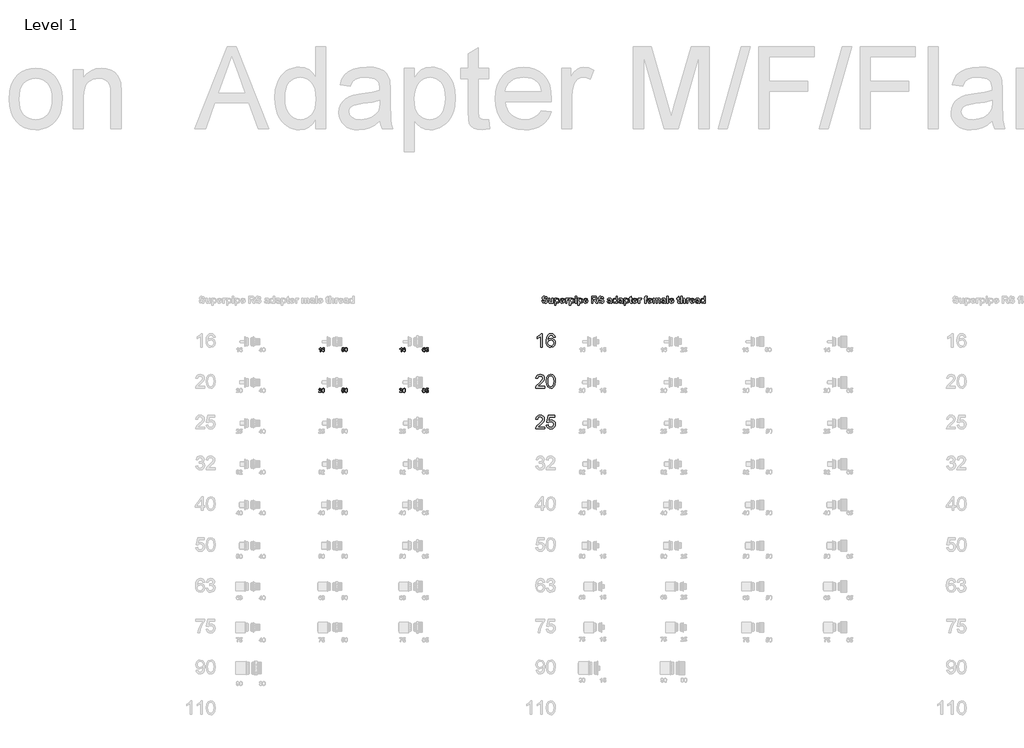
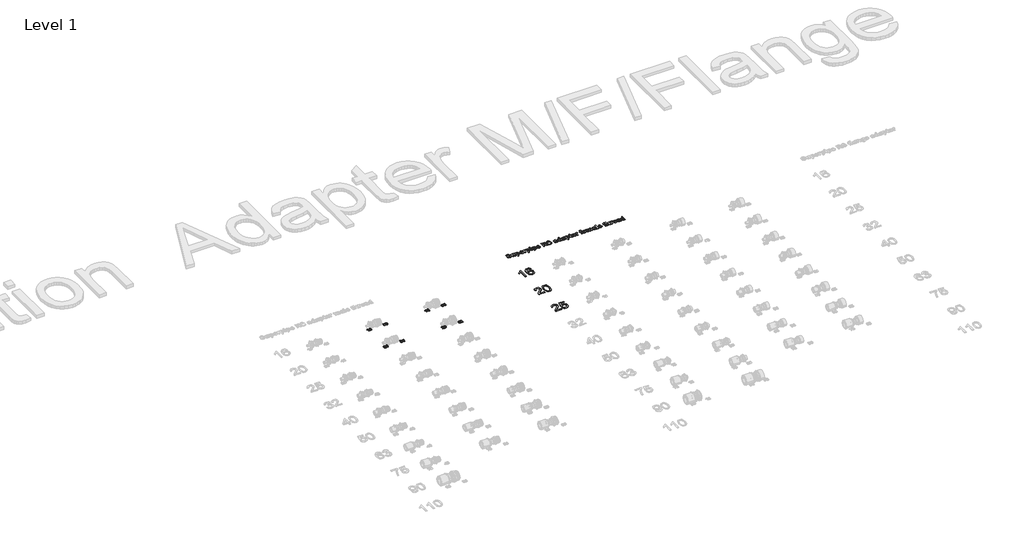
# One storey, part 37 of 58: 12 proxies.
"""IFC4 building model written with IfcOpenShell, lengths in millimetres."""

from ifc_helpers import new_model, si_unit, frame, origin, place, context, project, spatial, polyline, outline, extrude, element, save

model = new_model("IFC4")

# Units and contexts
model_context = context("Model", 3, world=origin())
ifc_project = project(units=[si_unit("LENGTHUNIT", "METRE", prefix="MILLI")], contexts=[model_context])

# Site, building, storey
site = spatial("IfcSite", under=ifc_project)
building = spatial("IfcBuilding", under=site)
storey = spatial("IfcBuildingStorey", under=building, Name="Level 1", Elevation=27.3876384)

# Proxies
placement = place(None, origin())
element("IfcBuildingElementProxy", 1, Name="100mm Arial", ObjectType="100mm Arial", at=placement, inside=storey, context=model_context, shape_type="SweptSolid", body=[
    extrude(outline(polyline([(31331.5703727, 18606.196048), (31319.0133339, 18606.196048), (31319.0133339, 18684.4813365), (31307.1184827, 18676.0077879), (31293.8992564, 18669.6679549), (31293.8992564, 18681.5382806), (31312.3056189, 18693.285979), (31323.4769688, 18706.6523581), (31331.5703727, 18706.6523581), (31331.5703727, 18606.196048)])), frame((0.0, 0.0, 27.3876384), z_axis=(0.0, 0.0, 1.0), x_axis=(1.0, 0.0, 0.0)), (0.0, 0.0, 1.0), 2.0),
    extrude(outline(polyline([(31425.7481635, 18679.9686507), (31413.1911247, 18678.3990209), (31408.4331842, 18688.871395), (31395.85162, 18694.0953193), (31384.5208545, 18691.0541615), (31375.949204, 18679.6375569), (31372.3807487, 18657.2580689), (31383.4539967, 18667.2767219), (31397.1759952, 18670.5508717), (31408.7765407, 18668.3129229), (31418.5131509, 18661.5990764), (31425.1166327, 18651.3413001), (31427.3177933, 18638.4715617), (31423.1729895, 18621.1443197), (31411.7686476, 18608.8815865), (31395.3120597, 18604.6264181), (31381.0658295, 18607.4468468), (31369.7197356, 18615.9081326), (31362.2977163, 18630.8441416), (31359.8237099, 18653.0887396), (31362.5705621, 18678.0985839), (31370.8111188, 18695.1989653), (31382.0621765, 18703.7890099), (31396.6364349, 18706.6523581), (31407.6545007, 18704.8803932), (31416.4775372, 18699.5644983), (31422.6579547, 18691.1216066), (31425.7481635, 18679.9686507)]), holes=[polyline([(31372.3807487, 18638.6677654), (31375.2870164, 18627.7907211), (31383.0125383, 18619.8935209), (31394.3310411, 18617.1834569), (31402.617583, 18618.5875398), (31409.13216, 18622.7997887), (31413.3536059, 18629.4216646), (31414.7607545, 18638.0546288), (31413.372, 18646.3411707), (31409.2057364, 18652.659544), (31402.5807948, 18656.6602607), (31393.8160063, 18657.9938329), (31378.6224799, 18652.659544), (31373.9411815, 18646.4944549), (31372.3807487, 18638.6677654)])]), frame((0.0, 0.0, 27.3876384), z_axis=(0.0, 0.0, 1.0), x_axis=(1.0, 0.0, 0.0)), (0.0, 0.0, 1.0), 2.0),
])
element("IfcBuildingElementProxy", 2, Name="100mm Arial", ObjectType="100mm Arial", at=placement, inside=storey, context=model_context, shape_type="SweptSolid", body=[
    extrude(outline(polyline([(31348.836301, 18318.7530867), (31348.836301, 18306.196048), (31282.9118475, 18306.196048), (31284.2607481, 18314.8535376), (31291.8881681, 18328.1831285), (31307.6089921, 18342.7389928), (31329.2895043, 18363.6592156), (31334.7096324, 18377.8839861), (31329.5960726, 18389.3986925), (31316.2419562, 18394.0953193), (31302.3237541, 18389.5090571), (31297.0385161, 18376.829391), (31284.4814773, 18378.3990209), (31287.5257008, 18390.5452581), (31294.1077228, 18399.4173455), (31303.8841869, 18404.843605), (31316.5117363, 18406.6523581), (31329.2312563, 18404.6412699), (31338.9893263, 18398.6080052), (31345.1973349, 18389.5948963), (31347.2666711, 18378.6442756), (31345.0348537, 18366.7371616), (31337.6159001, 18354.4253775), (31319.6264706, 18337.2207629), (31305.1809709, 18325.1419707), (31299.5155882, 18318.7530867), (31348.836301, 18318.7530867)])), frame((0.0, 0.0, 27.3876384), z_axis=(0.0, 0.0, 1.0), x_axis=(1.0, 0.0, 0.0)), (0.0, 0.0, 1.0), 2.0),
    extrude(outline(polyline([(31361.3933398, 18355.6148627), (31365.0844224, 18384.5181247), (31376.0473059, 18401.1831791), (31394.3555665, 18406.6523581), (31409.0217954, 18403.4149966), (31419.150813, 18394.0830566), (31425.0369249, 18379.220624), (31427.3177933, 18355.6148627), (31423.6634988, 18326.8342279), (31412.7374036, 18310.1323853), (31404.5060439, 18306.0029099), (31394.3555665, 18304.6264181), (31381.3080184, 18307.0176511), (31371.39973, 18314.19135), (31363.8949373, 18331.1813668), (31361.3933398, 18355.6148627)]), holes=[polyline([(31373.9503785, 18355.6393881), (31375.4219065, 18335.8871907), (31379.8364905, 18324.4552577), (31386.4093154, 18319.0014071), (31394.3555665, 18317.1834569), (31402.3018176, 18319.0075385), (31408.8746426, 18324.4797831), (31413.2892265, 18335.9178475), (31414.7607545, 18355.6393881), (31413.3382775, 18374.9470615), (31409.0708463, 18386.4678993), (31402.5102841, 18392.1884643), (31394.2084137, 18394.0953193), (31386.3480018, 18392.4153249), (31380.0326942, 18387.3753416), (31375.4709574, 18375.1371339), (31373.9503785, 18355.6393881)])]), frame((0.0, 0.0, 27.3876384), z_axis=(0.0, 0.0, 1.0), x_axis=(1.0, 0.0, 0.0)), (0.0, 0.0, 1.0), 2.0),
])
element("IfcBuildingElementProxy", 3, Name="100mm Arial", ObjectType="100mm Arial", at=placement, inside=storey, context=model_context, shape_type="SweptSolid", body=[
    extrude(outline(polyline([(31348.836301, 18018.7530867), (31348.836301, 18006.196048), (31282.9118475, 18006.196048), (31284.2607481, 18014.8535376), (31291.8881681, 18028.1831285), (31307.6089921, 18042.7389928), (31329.2895043, 18063.6592156), (31334.7096324, 18077.8839861), (31329.5960726, 18089.3986925), (31316.2419562, 18094.0953193), (31302.3237541, 18089.5090571), (31297.0385161, 18076.829391), (31284.4814773, 18078.3990209), (31287.5257008, 18090.5452581), (31294.1077228, 18099.4173455), (31303.8841869, 18104.843605), (31316.5117363, 18106.6523581), (31329.2312563, 18104.6412699), (31338.9893263, 18098.6080052), (31345.1973349, 18089.5948963), (31347.2666711, 18078.6442756), (31345.0348537, 18066.7371616), (31337.6159001, 18054.4253775), (31319.6264706, 18037.2207629), (31305.1809709, 18025.1419707), (31299.5155882, 18018.7530867), (31348.836301, 18018.7530867)])), frame((0.0, 0.0, 27.3876384), z_axis=(0.0, 0.0, 1.0), x_axis=(1.0, 0.0, 0.0)), (0.0, 0.0, 1.0), 2.0),
    extrude(outline(polyline([(31361.3933398, 18032.8797554), (31373.9503785, 18034.4493852), (31380.2779488, 18021.5122017), (31393.3990733, 18017.1834569), (31402.3999195, 18018.6887074), (31409.1444227, 18023.2044589), (31413.3566716, 18030.2095452), (31414.7607545, 18039.1828002), (31409.500042, 18054.0942837), (31402.8934945, 18058.196168), (31393.5952771, 18059.5634627), (31382.57108, 18057.3806962), (31375.5200084, 18051.7153135), (31362.9629696, 18053.2849434), (31373.9503785, 18105.0827283), (31422.6089038, 18105.0827283), (31422.6089038, 18092.5256895), (31384.1039216, 18092.5256895), (31378.7328445, 18064.8609635), (31387.7030338, 18070.305617), (31397.1024188, 18072.1205015), (31408.8347887, 18069.87029), (31418.5744645, 18063.1196554), (31425.1319611, 18052.8312222), (31427.3177933, 18039.9676151), (31425.3496246, 18027.4105764), (31419.4451186, 18016.6684221), (31408.1388786, 18007.6369191), (31393.3500224, 18004.6264181), (31381.0167785, 18006.5608643), (31371.1912636, 18012.3642028), (31364.4559574, 18021.3619832), (31361.3933398, 18032.8797554)])), frame((0.0, 0.0, 27.3876384), z_axis=(0.0, 0.0, 1.0), x_axis=(1.0, 0.0, 0.0)), (0.0, 0.0, 1.0), 2.0),
])
element("IfcBuildingElementProxy", 4, Name="30mm Arial", ObjectType="30mm Arial", at=placement, inside=storey, context=model_context, shape_type="SweptSolid", body=[
    extrude(outline(polyline([(29706.8418771, 18277.3459656), (29706.8418771, 18273.5788539), (29687.0645411, 18273.5788539), (29687.4692113, 18276.1761008), (29689.7574373, 18280.1749781), (29694.4736845, 18284.5417374), (29700.9778381, 18290.8178042), (29702.6038765, 18295.0852354), (29701.0698086, 18298.5396473), (29697.0635737, 18299.9486353), (29692.8881131, 18298.5727567), (29691.3025417, 18294.7688569), (29687.53543, 18295.2397458), (29690.4233037, 18301.5452432), (29697.1445077, 18303.715747), (29703.8877847, 18301.3024411), (29706.3709882, 18295.3133222), (29705.7014429, 18291.741188), (29703.4757569, 18288.0476528), (29698.078928, 18282.8862684), (29693.7452781, 18279.2626308), (29692.0456633, 18277.3459656), (29706.8418771, 18277.3459656)])), frame((0.0, 0.0, 27.3876384), z_axis=(0.0, 0.0, 1.0), x_axis=(1.0, 0.0, 0.0)), (0.0, 0.0, 1.0), 2.0),
    extrude(outline(polyline([(29710.6089888, 18288.4044983), (29711.7163136, 18297.075477), (29715.0051786, 18302.0749933), (29720.4976568, 18303.715747), (29724.8975255, 18302.7445385), (29727.9362307, 18299.9449565), (29729.7020643, 18295.4862267), (29730.3863248, 18288.4044983), (29729.2900365, 18279.7703079), (29726.0122079, 18274.7597551), (29720.4976568, 18273.107965), (29713.6109058, 18275.9774445), (29710.6089888, 18288.4044983)]), holes=[polyline([(29714.3761004, 18288.411856), (29716.141934, 18279.0566168), (29720.4976568, 18276.8750766), (29724.8533796, 18279.0639745), (29726.6192132, 18288.411856), (29724.9122407, 18297.6604093), (29720.453511, 18299.9486353), (29716.2007951, 18297.932642), (29714.3761004, 18288.411856)])]), frame((0.0, 0.0, 27.3876384), z_axis=(0.0, 0.0, 1.0), x_axis=(1.0, 0.0, 0.0)), (0.0, 0.0, 1.0), 2.0),
])
element("IfcBuildingElementProxy", 5, Name="30mm Arial", ObjectType="30mm Arial", at=placement, inside=storey, context=model_context, shape_type="SweptSolid", body=[
    extrude(outline(polyline([(29856.28543, 18281.5839661), (29860.0525417, 18282.0548551), (29861.9508128, 18278.1737001), (29865.8871501, 18276.8750766), (29870.6107549, 18278.6813772), (29872.2956545, 18283.4748796), (29870.7174407, 18287.9483247), (29865.9460112, 18289.5890784), (29862.6387521, 18288.9342484), (29860.5234306, 18287.2346336), (29856.756319, 18287.7055225), (29860.0525417, 18303.244858), (29874.6500992, 18303.244858), (29874.6500992, 18299.4777464), (29863.0986046, 18299.4777464), (29861.4872814, 18291.1783286), (29866.9981537, 18293.35619), (29873.4397675, 18290.6559361), (29876.0627661, 18283.7103241), (29873.7009637, 18276.7205662), (29865.8724348, 18273.107965), (29859.2248072, 18275.4293004), (29856.28543, 18281.5839661)])), frame((0.0, 0.0, 27.3876384), z_axis=(0.0, 0.0, 1.0), x_axis=(1.0, 0.0, 0.0)), (0.0, 0.0, 1.0), 2.0),
    extrude(outline(polyline([(29879.3589888, 18288.4044983), (29880.4663136, 18297.075477), (29883.7551786, 18302.0749933), (29889.2476568, 18303.715747), (29893.6475255, 18302.7445385), (29896.6862307, 18299.9449565), (29898.4520643, 18295.4862267), (29899.1363248, 18288.4044983), (29898.0400365, 18279.7703079), (29894.7622079, 18274.7597551), (29889.2476568, 18273.107965), (29882.3609058, 18275.9774445), (29879.3589888, 18288.4044983)]), holes=[polyline([(29883.1261004, 18288.411856), (29884.891934, 18279.0566168), (29889.2476568, 18276.8750766), (29893.6033796, 18279.0639745), (29895.3692132, 18288.411856), (29893.6622407, 18297.6604093), (29889.203511, 18299.9486353), (29884.9507951, 18297.932642), (29883.1261004, 18288.411856)])]), frame((0.0, 0.0, 27.3876384), z_axis=(0.0, 0.0, 1.0), x_axis=(1.0, 0.0, 0.0)), (0.0, 0.0, 1.0), 2.0),
])
element("IfcBuildingElementProxy", 6, Name="30mm Arial", ObjectType="30mm Arial", at=placement, inside=storey, context=model_context, shape_type="SweptSolid", body=[
    extrude(outline(polyline([(29701.6620986, 18573.5788539), (29697.894987, 18573.5788539), (29697.894987, 18597.0644405), (29694.3265317, 18594.5223759), (29690.3607637, 18592.620426), (29690.3607637, 18596.1815237), (29695.8826725, 18599.7058332), (29699.2340775, 18603.715747), (29701.6620986, 18603.715747), (29701.6620986, 18573.5788539)])), frame((0.0, 0.0, 27.3876384), z_axis=(0.0, 0.0, 1.0), x_axis=(1.0, 0.0, 0.0)), (0.0, 0.0, 1.0), 2.0),
    extrude(outline(polyline([(29729.9154359, 18595.7106348), (29726.1483242, 18595.2397458), (29724.7209421, 18598.381458), (29720.9464728, 18599.9486353), (29717.5472432, 18599.036288), (29714.975748, 18595.6113066), (29713.9052114, 18588.8974602), (29717.2271859, 18591.9030561), (29721.3437854, 18592.885301), (29727.7449321, 18590.1997625), (29730.3863248, 18583.261508), (29729.1428837, 18578.0633355), (29725.7215811, 18574.3845155), (29720.7846047, 18573.107965), (29713.1069075, 18576.4924793), (29710.1380998, 18587.6466614), (29713.4343225, 18600.2797291), (29721.1819173, 18603.715747), (29727.134248, 18601.589389), (29729.9154359, 18595.7106348)]), holes=[polyline([(29713.9052114, 18583.3203692), (29714.7770918, 18580.0572559), (29717.0947483, 18577.6880958), (29720.4902992, 18576.8750766), (29724.9306348, 18578.5599761), (29726.6192132, 18583.1364282), (29724.9527078, 18587.5179027), (29720.3357887, 18589.1181894), (29715.7777308, 18587.5179027), (29713.9052114, 18583.3203692)])]), frame((0.0, 0.0, 27.3876384), z_axis=(0.0, 0.0, 1.0), x_axis=(1.0, 0.0, 0.0)), (0.0, 0.0, 1.0), 2.0),
])
element("IfcBuildingElementProxy", 7, Name="30mm Arial", ObjectType="30mm Arial", at=placement, inside=storey, context=model_context, shape_type="SweptSolid", body=[
    extrude(outline(polyline([(29856.28543, 18581.5839661), (29860.0525417, 18582.0548551), (29861.9508128, 18578.1737001), (29865.8871501, 18576.8750766), (29870.6107549, 18578.6813772), (29872.2956545, 18583.4748796), (29870.7174407, 18587.9483247), (29865.9460112, 18589.5890784), (29862.6387521, 18588.9342484), (29860.5234306, 18587.2346336), (29856.756319, 18587.7055225), (29860.0525417, 18603.244858), (29874.6500992, 18603.244858), (29874.6500992, 18599.4777464), (29863.0986046, 18599.4777464), (29861.4872814, 18591.1783286), (29866.9981537, 18593.35619), (29873.4397675, 18590.6559361), (29876.0627661, 18583.7103241), (29873.7009637, 18576.7205662), (29865.8724348, 18573.107965), (29859.2248072, 18575.4293004), (29856.28543, 18581.5839661)])), frame((0.0, 0.0, 27.3876384), z_axis=(0.0, 0.0, 1.0), x_axis=(1.0, 0.0, 0.0)), (0.0, 0.0, 1.0), 2.0),
    extrude(outline(polyline([(29879.3589888, 18588.4044983), (29880.4663136, 18597.075477), (29883.7551786, 18602.0749933), (29889.2476568, 18603.715747), (29893.6475255, 18602.7445385), (29896.6862307, 18599.9449565), (29898.4520643, 18595.4862267), (29899.1363248, 18588.4044983), (29898.0400365, 18579.7703079), (29894.7622079, 18574.7597551), (29889.2476568, 18573.107965), (29882.3609058, 18575.9774445), (29879.3589888, 18588.4044983)]), holes=[polyline([(29883.1261004, 18588.411856), (29884.891934, 18579.0566168), (29889.2476568, 18576.8750766), (29893.6033796, 18579.0639745), (29895.3692132, 18588.411856), (29893.6622407, 18597.6604093), (29889.203511, 18599.9486353), (29884.9507951, 18597.932642), (29883.1261004, 18588.411856)])]), frame((0.0, 0.0, 27.3876384), z_axis=(0.0, 0.0, 1.0), x_axis=(1.0, 0.0, 0.0)), (0.0, 0.0, 1.0), 2.0),
])
element("IfcBuildingElementProxy", 8, Name="30mm Arial", ObjectType="30mm Arial", at=placement, inside=storey, context=model_context, shape_type="SweptSolid", body=[
    extrude(outline(polyline([(30301.8418771, 18277.3459656), (30301.8418771, 18273.5788539), (30282.0645411, 18273.5788539), (30282.4692113, 18276.1761008), (30284.7574373, 18280.1749781), (30289.4736845, 18284.5417374), (30295.9778381, 18290.8178042), (30297.6038765, 18295.0852354), (30296.0698086, 18298.5396473), (30292.0635737, 18299.9486353), (30287.8881131, 18298.5727567), (30286.3025417, 18294.7688569), (30282.53543, 18295.2397458), (30285.4233037, 18301.5452432), (30292.1445077, 18303.715747), (30298.8877847, 18301.3024411), (30301.3709882, 18295.3133222), (30300.7014429, 18291.741188), (30298.4757569, 18288.0476528), (30293.078928, 18282.8862684), (30288.7452781, 18279.2626308), (30287.0456633, 18277.3459656), (30301.8418771, 18277.3459656)])), frame((0.0, 0.0, 27.3876384), z_axis=(0.0, 0.0, 1.0), x_axis=(1.0, 0.0, 0.0)), (0.0, 0.0, 1.0), 2.0),
    extrude(outline(polyline([(30305.6089888, 18288.4044983), (30306.7163136, 18297.075477), (30310.0051786, 18302.0749933), (30315.4976568, 18303.715747), (30319.8975255, 18302.7445385), (30322.9362307, 18299.9449565), (30324.7020643, 18295.4862267), (30325.3863248, 18288.4044983), (30324.2900365, 18279.7703079), (30321.0122079, 18274.7597551), (30315.4976568, 18273.107965), (30308.6109058, 18275.9774445), (30305.6089888, 18288.4044983)]), holes=[polyline([(30309.3761004, 18288.411856), (30311.141934, 18279.0566168), (30315.4976568, 18276.8750766), (30319.8533796, 18279.0639745), (30321.6192132, 18288.411856), (30319.9122407, 18297.6604093), (30315.453511, 18299.9486353), (30311.2007951, 18297.932642), (30309.3761004, 18288.411856)])]), frame((0.0, 0.0, 27.3876384), z_axis=(0.0, 0.0, 1.0), x_axis=(1.0, 0.0, 0.0)), (0.0, 0.0, 1.0), 2.0),
])
element("IfcBuildingElementProxy", 9, Name="30mm Arial", ObjectType="30mm Arial", at=placement, inside=storey, context=model_context, shape_type="SweptSolid", body=[
    extrude(outline(polyline([(30470.5918771, 18295.7106348), (30466.8247655, 18295.2397458), (30465.3973834, 18298.381458), (30461.6229141, 18299.9486353), (30458.2236845, 18299.036288), (30455.6521893, 18295.6113066), (30454.5816527, 18288.8974602), (30457.9036271, 18291.9030561), (30462.0202266, 18292.885301), (30468.4213734, 18290.1997625), (30471.0627661, 18283.261508), (30469.8193249, 18278.0633355), (30466.3980224, 18274.3845155), (30461.461046, 18273.107965), (30453.7833488, 18276.4924793), (30450.8145411, 18287.6466614), (30454.1107637, 18300.2797291), (30461.8583586, 18303.715747), (30467.8106892, 18301.589389), (30470.5918771, 18295.7106348)]), holes=[polyline([(30454.5816527, 18283.3203692), (30455.453533, 18280.0572559), (30457.7711896, 18277.6880958), (30461.1667404, 18276.8750766), (30465.6070761, 18278.5599761), (30467.2956545, 18283.1364282), (30465.629149, 18287.5179027), (30461.01223, 18289.1181894), (30456.4541721, 18287.5179027), (30454.5816527, 18283.3203692)])]), frame((0.0, 0.0, 27.3876384), z_axis=(0.0, 0.0, 1.0), x_axis=(1.0, 0.0, 0.0)), (0.0, 0.0, 1.0), 2.0),
    extrude(outline(polyline([(30474.3589888, 18281.5839661), (30478.1261004, 18282.0548551), (30480.0243715, 18278.1737001), (30483.9607088, 18276.8750766), (30488.6843137, 18278.6813772), (30490.3692132, 18283.4748796), (30488.7909994, 18287.9483247), (30484.01957, 18289.5890784), (30480.7123108, 18288.9342484), (30478.5969893, 18287.2346336), (30474.8298777, 18287.7055225), (30478.1261004, 18303.244858), (30492.723658, 18303.244858), (30492.723658, 18299.4777464), (30481.1721633, 18299.4777464), (30479.5608402, 18291.1783286), (30485.0717125, 18293.35619), (30491.5133262, 18290.6559361), (30494.1363248, 18283.7103241), (30491.7745224, 18276.7205662), (30483.9459936, 18273.107965), (30477.2983659, 18275.4293004), (30474.3589888, 18281.5839661)])), frame((0.0, 0.0, 27.3876384), z_axis=(0.0, 0.0, 1.0), x_axis=(1.0, 0.0, 0.0)), (0.0, 0.0, 1.0), 2.0),
])
element("IfcBuildingElementProxy", 10, Name="30mm Arial", ObjectType="30mm Arial", at=placement, inside=storey, context=model_context, shape_type="SweptSolid", body=[
    extrude(outline(polyline([(30296.6620986, 18573.5788539), (30292.894987, 18573.5788539), (30292.894987, 18597.0644405), (30289.3265317, 18594.5223759), (30285.3607637, 18592.620426), (30285.3607637, 18596.1815237), (30290.8826725, 18599.7058332), (30294.2340775, 18603.715747), (30296.6620986, 18603.715747), (30296.6620986, 18573.5788539)])), frame((0.0, 0.0, 27.3876384), z_axis=(0.0, 0.0, 1.0), x_axis=(1.0, 0.0, 0.0)), (0.0, 0.0, 1.0), 2.0),
    extrude(outline(polyline([(30324.9154359, 18595.7106348), (30321.1483242, 18595.2397458), (30319.7209421, 18598.381458), (30315.9464728, 18599.9486353), (30312.5472432, 18599.036288), (30309.975748, 18595.6113066), (30308.9052114, 18588.8974602), (30312.2271859, 18591.9030561), (30316.3437854, 18592.885301), (30322.7449321, 18590.1997625), (30325.3863248, 18583.261508), (30324.1428837, 18578.0633355), (30320.7215811, 18574.3845155), (30315.7846047, 18573.107965), (30308.1069075, 18576.4924793), (30305.1380998, 18587.6466614), (30308.4343225, 18600.2797291), (30316.1819173, 18603.715747), (30322.134248, 18601.589389), (30324.9154359, 18595.7106348)]), holes=[polyline([(30308.9052114, 18583.3203692), (30309.7770918, 18580.0572559), (30312.0947483, 18577.6880958), (30315.4902992, 18576.8750766), (30319.9306348, 18578.5599761), (30321.6192132, 18583.1364282), (30319.9527078, 18587.5179027), (30315.3357887, 18589.1181894), (30310.7777308, 18587.5179027), (30308.9052114, 18583.3203692)])]), frame((0.0, 0.0, 27.3876384), z_axis=(0.0, 0.0, 1.0), x_axis=(1.0, 0.0, 0.0)), (0.0, 0.0, 1.0), 2.0),
])
element("IfcBuildingElementProxy", 11, Name="30mm Arial", ObjectType="30mm Arial", at=placement, inside=storey, context=model_context, shape_type="SweptSolid", body=[
    extrude(outline(polyline([(30470.5918771, 18595.7106348), (30466.8247655, 18595.2397458), (30465.3973834, 18598.381458), (30461.6229141, 18599.9486353), (30458.2236845, 18599.036288), (30455.6521893, 18595.6113066), (30454.5816527, 18588.8974602), (30457.9036271, 18591.9030561), (30462.0202266, 18592.885301), (30468.4213734, 18590.1997625), (30471.0627661, 18583.261508), (30469.8193249, 18578.0633355), (30466.3980224, 18574.3845155), (30461.461046, 18573.107965), (30453.7833488, 18576.4924793), (30450.8145411, 18587.6466614), (30454.1107637, 18600.2797291), (30461.8583586, 18603.715747), (30467.8106892, 18601.589389), (30470.5918771, 18595.7106348)]), holes=[polyline([(30454.5816527, 18583.3203692), (30455.453533, 18580.0572559), (30457.7711896, 18577.6880958), (30461.1667404, 18576.8750766), (30465.6070761, 18578.5599761), (30467.2956545, 18583.1364282), (30465.629149, 18587.5179027), (30461.01223, 18589.1181894), (30456.4541721, 18587.5179027), (30454.5816527, 18583.3203692)])]), frame((0.0, 0.0, 27.3876384), z_axis=(0.0, 0.0, 1.0), x_axis=(1.0, 0.0, 0.0)), (0.0, 0.0, 1.0), 2.0),
    extrude(outline(polyline([(30474.3589888, 18581.5839661), (30478.1261004, 18582.0548551), (30480.0243715, 18578.1737001), (30483.9607088, 18576.8750766), (30488.6843137, 18578.6813772), (30490.3692132, 18583.4748796), (30488.7909994, 18587.9483247), (30484.01957, 18589.5890784), (30480.7123108, 18588.9342484), (30478.5969893, 18587.2346336), (30474.8298777, 18587.7055225), (30478.1261004, 18603.244858), (30492.723658, 18603.244858), (30492.723658, 18599.4777464), (30481.1721633, 18599.4777464), (30479.5608402, 18591.1783286), (30485.0717125, 18593.35619), (30491.5133262, 18590.6559361), (30494.1363248, 18583.7103241), (30491.7745224, 18576.7205662), (30483.9459936, 18573.107965), (30477.2983659, 18575.4293004), (30474.3589888, 18581.5839661)])), frame((0.0, 0.0, 27.3876384), z_axis=(0.0, 0.0, 1.0), x_axis=(1.0, 0.0, 0.0)), (0.0, 0.0, 1.0), 2.0),
])
element("IfcBuildingElementProxy", 12, Name="50mm Arial", ObjectType="50mm Arial", at=placement, inside=storey, context=model_context, shape_type="SweptSolid", body=[
    extrude(outline(polyline([(31328.9770616, 18946.5014095), (31338.6938178, 18947.3111392), (31342.4894257, 18939.9476599), (31350.1945097, 18937.594383), (31357.9502018, 18939.6756413), (31360.5565192, 18944.5403454), (31359.4747709, 18947.5831577), (31355.6854891, 18949.7656323), (31347.2592396, 18951.9291288), (31335.3916389, 18956.9013751), (31330.5965209, 18967.1368644), (31332.7979735, 18974.3991274), (31339.1492907, 18979.5485021), (31349.1570435, 18981.3197858), (31363.5740275, 18976.9042286), (31368.653816, 18965.1251922), (31358.9370598, 18965.1251922), (31356.0081157, 18970.7110618), (31349.2709117, 18972.4127593), (31342.0086487, 18970.6035196), (31340.3132771, 18967.4911211), (31341.8568243, 18964.4419828), (31351.3774741, 18961.1208258), (31362.5555393, 18957.5276504), (31368.2236471, 18952.3846017), (31370.2732754, 18944.325261), (31367.8504124, 18936.177356), (31360.9930141, 18930.5345523), (31349.9414691, 18928.6873565), (31335.1385984, 18933.2357599), (31328.9770616, 18946.5014095)])), frame((0.0, 0.0, 27.3876384), z_axis=(0.0, 0.0, 1.0), x_axis=(1.0, 0.0, 0.0)), (0.0, 0.0, 1.0), 2.0),
    extrude(outline(polyline([(31401.852733, 18929.4970861), (31401.852733, 18934.9627615), (31396.7729444, 18930.3637499), (31390.1243046, 18928.6873565), (31383.7350314, 18930.3321199), (31379.6357748, 18934.9564355), (31378.3705722, 18943.1992306), (31378.3705722, 18966.7446515), (31388.0873284, 18966.7446515), (31388.0873284, 18949.5252438), (31388.6123875, 18939.8401176), (31390.5354955, 18937.0187158), (31394.0843889, 18935.9749236), (31398.480968, 18937.3666465), (31401.1378935, 18940.8269757), (31401.852733, 18950.9422707), (31401.852733, 18966.7446515), (31411.5694892, 18966.7446515), (31411.5694892, 18929.4970861), (31401.852733, 18929.4970861)])), frame((0.0, 0.0, 27.3876384), z_axis=(0.0, 0.0, 1.0), x_axis=(1.0, 0.0, 0.0)), (0.0, 0.0, 1.0), 2.0),
    extrude(outline(polyline([(31421.2862454, 18966.7446515), (31431.0030016, 18966.7446515), (31431.0030016, 18961.3801924), (31435.6209912, 18965.8463577), (31442.0861766, 18967.5543812), (31452.5936844, 18962.4745927), (31456.9143514, 18948.3359533), (31452.4545121, 18933.8493832), (31441.6433557, 18928.6873565), (31436.1650283, 18929.889299), (31431.0030016, 18934.0138595), (31431.0030016, 18915.7316815), (31421.2862454, 18915.7316815), (31421.2862454, 18966.7446515)]), holes=[polyline([(31431.0030016, 18948.7661222), (31433.4385166, 18939.0999741), (31439.378643, 18935.9749236), (31444.9645126, 18938.8406076), (31447.1975952, 18948.2473891), (31444.9012525, 18957.3062399), (31439.2015146, 18960.2668141), (31433.3373004, 18957.363174), (31431.0030016, 18948.7661222)])]), frame((0.0, 0.0, 27.3876384), z_axis=(0.0, 0.0, 1.0), x_axis=(1.0, 0.0, 0.0)), (0.0, 0.0, 1.0), 2.0),
    extrude(outline(polyline([(31485.2548903, 18940.8333017), (31494.9716465, 18939.2138423), (31489.1770185, 18931.375912), (31479.2704819, 18928.6873565), (31471.0814579, 18930.2720228), (31465.3406009, 18935.0260216), (31461.7727295, 18947.8425243), (31466.5045873, 18962.3164423), (31478.4734042, 18967.5543812), (31491.2899068, 18962.17727), (31495.7813762, 18945.6916798), (31471.4894857, 18945.6916798), (31473.7795025, 18938.5306329), (31479.2325258, 18935.9749236), (31482.9648735, 18937.126258), (31485.2548903, 18940.8333017)]), holes=[polyline([(31486.06462, 18951.3597876), (31483.9011235, 18957.9957754), (31478.8909211, 18960.2668141), (31473.6782862, 18957.8755811), (31471.653962, 18951.3597876), (31486.06462, 18951.3597876)])]), frame((0.0, 0.0, 27.3876384), z_axis=(0.0, 0.0, 1.0), x_axis=(1.0, 0.0, 0.0)), (0.0, 0.0, 1.0), 2.0),
    extrude(outline(polyline([(31512.7856995, 18929.4970861), (31503.0689433, 18929.4970861), (31503.0689433, 18966.7446515), (31512.7856995, 18966.7446515), (31512.7856995, 18961.5573208), (31516.6698716, 18966.3967208), (31520.5919997, 18967.5543812), (31526.5511041, 18965.504753), (31523.7170502, 18956.2561217), (31519.2129289, 18957.837625), (31515.7905557, 18956.7305727), (31513.5891032, 18952.7388584), (31512.7856995, 18940.6435213), (31512.7856995, 18929.4970861)])), frame((0.0, 0.0, 27.3876384), z_axis=(0.0, 0.0, 1.0), x_axis=(1.0, 0.0, 0.0)), (0.0, 0.0, 1.0), 2.0),
    extrude(outline(polyline([(31530.5997525, 18966.7446515), (31540.3165087, 18966.7446515), (31540.3165087, 18961.3801924), (31544.9344983, 18965.8463577), (31551.3996837, 18967.5543812), (31561.9071916, 18962.4745927), (31566.2278586, 18948.3359533), (31561.7680193, 18933.8493832), (31550.9568628, 18928.6873565), (31545.4785354, 18929.889299), (31540.3165087, 18934.0138595), (31540.3165087, 18915.7316815), (31530.5997525, 18915.7316815), (31530.5997525, 18966.7446515)]), holes=[polyline([(31540.3165087, 18948.7661222), (31542.7520238, 18939.0999741), (31548.6921501, 18935.9749236), (31554.2780197, 18938.8406076), (31556.5111024, 18948.2473891), (31554.2147596, 18957.3062399), (31548.5150217, 18960.2668141), (31542.6508076, 18957.363174), (31540.3165087, 18948.7661222)])]), frame((0.0, 0.0, 27.3876384), z_axis=(0.0, 0.0, 1.0), x_axis=(1.0, 0.0, 0.0)), (0.0, 0.0, 1.0), 2.0),
    extrude(outline(polyline([(31573.5154257, 18929.4970861), (31573.5154257, 18966.7446515), (31583.2321819, 18966.7446515), (31583.2321819, 18929.4970861), (31573.5154257, 18929.4970861)])), frame((0.0, 0.0, 27.3876384), z_axis=(0.0, 0.0, 1.0), x_axis=(1.0, 0.0, 0.0)), (0.0, 0.0, 1.0), 2.0),
    extrude(outline(polyline([(31573.5154257, 18971.6030296), (31573.5154257, 18980.5100561), (31583.2321819, 18980.5100561), (31583.2321819, 18971.6030296), (31573.5154257, 18971.6030296)])), frame((0.0, 0.0, 27.3876384), z_axis=(0.0, 0.0, 1.0), x_axis=(1.0, 0.0, 0.0)), (0.0, 0.0, 1.0), 2.0),
    extrude(outline(polyline([(31592.9489381, 18966.7446515), (31602.6656943, 18966.7446515), (31602.6656943, 18961.3801924), (31607.2836839, 18965.8463577), (31613.7488693, 18967.5543812), (31624.2563771, 18962.4745927), (31628.5770441, 18948.3359533), (31624.1172048, 18933.8493832), (31613.3060484, 18928.6873565), (31607.827721, 18929.889299), (31602.6656943, 18934.0138595), (31602.6656943, 18915.7316815), (31592.9489381, 18915.7316815), (31592.9489381, 18966.7446515)]), holes=[polyline([(31602.6656943, 18948.7661222), (31605.1012093, 18939.0999741), (31611.0413357, 18935.9749236), (31616.6272053, 18938.8406076), (31618.8602879, 18948.2473891), (31616.5639451, 18957.3062399), (31610.8642073, 18960.2668141), (31604.9999931, 18957.363174), (31602.6656943, 18948.7661222)])]), frame((0.0, 0.0, 27.3876384), z_axis=(0.0, 0.0, 1.0), x_axis=(1.0, 0.0, 0.0)), (0.0, 0.0, 1.0), 2.0),
    extrude(outline(polyline([(31656.917583, 18940.8333017), (31666.6343392, 18939.2138423), (31660.8397111, 18931.375912), (31650.9331746, 18928.6873565), (31642.7441505, 18930.2720228), (31637.0032936, 18935.0260216), (31633.4354222, 18947.8425243), (31638.16728, 18962.3164423), (31650.1360969, 18967.5543812), (31662.9525995, 18962.17727), (31667.4440689, 18945.6916798), (31643.1521784, 18945.6916798), (31645.4421951, 18938.5306329), (31650.8952185, 18935.9749236), (31654.6275662, 18937.126258), (31656.917583, 18940.8333017)]), holes=[polyline([(31657.7273127, 18951.3597876), (31655.5638162, 18957.9957754), (31650.5536138, 18960.2668141), (31645.3409789, 18957.8755811), (31643.3166547, 18951.3597876), (31657.7273127, 18951.3597876)])]), frame((0.0, 0.0, 27.3876384), z_axis=(0.0, 0.0, 1.0), x_axis=(1.0, 0.0, 0.0)), (0.0, 0.0, 1.0), 2.0),
    extrude(outline(polyline([(31694.1651484, 18929.4970861), (31694.1651484, 18980.5100561), (31715.622985, 18980.5100561), (31727.3893694, 18979.1309853), (31733.2599096, 18974.2219991), (31735.4613622, 18966.1373543), (31732.2793776, 18956.6103785), (31722.7587278, 18951.8785206), (31727.8574944, 18947.6274398), (31733.2725616, 18939.3909707), (31739.5100106, 18929.4970861), (31728.161143, 18929.4970861), (31720.7723597, 18941.1496024), (31714.9714056, 18948.0639347), (31711.6565747, 18950.0186728), (31706.1086612, 18950.5500579), (31703.8819046, 18950.5500579), (31703.8819046, 18929.4970861), (31694.1651484, 18929.4970861)]), holes=[polyline([(31703.8819046, 18959.4570844), (31711.8906372, 18959.4570844), (31721.6137194, 18960.0454036), (31724.6502057, 18962.0697278), (31725.744606, 18965.6565773), (31724.302275, 18969.5597274), (31720.2283225, 18971.4385533), (31712.3334581, 18971.6030296), (31703.8819046, 18971.6030296), (31703.8819046, 18959.4570844)])]), frame((0.0, 0.0, 27.3876384), z_axis=(0.0, 0.0, 1.0), x_axis=(1.0, 0.0, 0.0)), (0.0, 0.0, 1.0), 2.0),
    extrude(outline(polyline([(31742.7489293, 18946.5014095), (31752.4656855, 18947.3111392), (31756.2612934, 18939.9476599), (31763.9663774, 18937.594383), (31771.7220695, 18939.6756413), (31774.328387, 18944.5403454), (31773.2466387, 18947.5831577), (31769.4573568, 18949.7656323), (31761.0311073, 18951.9291288), (31749.1635067, 18956.9013751), (31744.3683887, 18967.1368644), (31746.5698413, 18974.3991274), (31752.9211585, 18979.5485021), (31762.9289113, 18981.3197858), (31777.3458952, 18976.9042286), (31782.4256838, 18965.1251922), (31772.7089276, 18965.1251922), (31769.7799835, 18970.7110618), (31763.0427795, 18972.4127593), (31755.7805164, 18970.6035196), (31754.0851449, 18967.4911211), (31755.6286921, 18964.4419828), (31765.1493419, 18961.1208258), (31776.3274071, 18957.5276504), (31781.9955149, 18952.3846017), (31784.0451431, 18944.325261), (31781.6222801, 18936.177356), (31774.7648819, 18930.5345523), (31763.7133369, 18928.6873565), (31748.9104661, 18933.2357599), (31742.7489293, 18946.5014095)])), frame((0.0, 0.0, 27.3876384), z_axis=(0.0, 0.0, 1.0), x_axis=(1.0, 0.0, 0.0)), (0.0, 0.0, 1.0), 2.0),
    extrude(outline(polyline([(31819.6732492, 18955.408436), (31810.7662227, 18957.0278953), (31815.6562308, 18964.9733679), (31825.9613062, 18967.5543812), (31835.2099375, 18965.991856), (31839.4863223, 18962.0317717), (31840.7262209, 18953.2196354), (31840.7262209, 18941.7315956), (31841.238628, 18934.4946365), (31843.15541, 18929.4970861), (31833.4386538, 18929.4970861), (31832.5277079, 18932.5841806), (31826.9861204, 18929.9715371), (31821.0776241, 18928.6873565), (31812.3413999, 18931.8060809), (31809.1467633, 18939.6819673), (31810.5701163, 18945.299467), (31814.5618306, 18949.0824228), (31821.9632659, 18951.3724396), (31831.0094647, 18953.7889766), (31829.8011962, 18959.0142635), (31825.2527928, 18960.2668141), (31821.7228774, 18959.1913918), (31819.6732492, 18955.408436)]), holes=[polyline([(31831.0094647, 18946.5014095), (31825.5311373, 18945.1539687), (31820.6221511, 18943.6167475), (31818.8635195, 18940.517001), (31820.2742204, 18937.3223644), (31823.8610699, 18935.9749236), (31828.5043635, 18937.5437749), (31830.655208, 18940.4537409), (31831.0094647, 18944.7427778), (31831.0094647, 18946.5014095)])]), frame((0.0, 0.0, 27.3876384), z_axis=(0.0, 0.0, 1.0), x_axis=(1.0, 0.0, 0.0)), (0.0, 0.0, 1.0), 2.0),
    extrude(outline(polyline([(31883.6418941, 18929.4970861), (31873.9251379, 18929.4970861), (31873.9251379, 18934.8615453), (31868.7947412, 18930.2119256), (31862.8419629, 18928.6873565), (31852.3724111, 18933.8493832), (31848.0137881, 18948.2600411), (31852.3660851, 18962.632743), (31863.373348, 18967.5543812), (31873.9251379, 18962.4556146), (31873.9251379, 18980.5100561), (31883.6418941, 18980.5100561), (31883.6418941, 18929.4970861)]), holes=[polyline([(31857.7305443, 18948.8293823), (31859.3500036, 18939.9476599), (31865.8911012, 18935.9749236), (31871.584513, 18938.9544758), (31873.9251379, 18947.8551763), (31871.6540992, 18957.363174), (31865.8278411, 18960.2668141), (31860.0585171, 18957.3948041), (31857.7305443, 18948.8293823)])]), frame((0.0, 0.0, 27.3876384), z_axis=(0.0, 0.0, 1.0), x_axis=(1.0, 0.0, 0.0)), (0.0, 0.0, 1.0), 2.0),
    extrude(outline(polyline([(31901.4559471, 18955.408436), (31892.5489206, 18957.0278953), (31897.4389288, 18964.9733679), (31907.7440042, 18967.5543812), (31916.9926354, 18965.991856), (31921.2690203, 18962.0317717), (31922.5089189, 18953.2196354), (31922.5089189, 18941.7315956), (31923.0213259, 18934.4946365), (31924.9381079, 18929.4970861), (31915.2213517, 18929.4970861), (31914.3104058, 18932.5841806), (31908.7688183, 18929.9715371), (31902.860322, 18928.6873565), (31894.1240979, 18931.8060809), (31890.9294612, 18939.6819673), (31892.3528142, 18945.299467), (31896.3445285, 18949.0824228), (31903.7459639, 18951.3724396), (31912.7921627, 18953.7889766), (31911.5838942, 18959.0142635), (31907.0354907, 18960.2668141), (31903.5055754, 18959.1913918), (31901.4559471, 18955.408436)]), holes=[polyline([(31912.7921627, 18946.5014095), (31907.3138353, 18945.1539687), (31902.4048491, 18943.6167475), (31900.6462174, 18940.517001), (31902.0569184, 18937.3223644), (31905.6437678, 18935.9749236), (31910.2870615, 18937.5437749), (31912.4379059, 18940.4537409), (31912.7921627, 18944.7427778), (31912.7921627, 18946.5014095)])]), frame((0.0, 0.0, 27.3876384), z_axis=(0.0, 0.0, 1.0), x_axis=(1.0, 0.0, 0.0)), (0.0, 0.0, 1.0), 2.0),
    extrude(outline(polyline([(31932.225675, 18966.7446515), (31941.9424312, 18966.7446515), (31941.9424312, 18961.3801924), (31946.5604208, 18965.8463577), (31953.0256063, 18967.5543812), (31963.5331141, 18962.4745927), (31967.8537811, 18948.3359533), (31963.3939418, 18933.8493832), (31952.5827853, 18928.6873565), (31947.104458, 18929.889299), (31941.9424312, 18934.0138595), (31941.9424312, 18915.7316815), (31932.225675, 18915.7316815), (31932.225675, 18966.7446515)]), holes=[polyline([(31941.9424312, 18948.7661222), (31944.3779463, 18939.0999741), (31950.3180726, 18935.9749236), (31955.9039422, 18938.8406076), (31958.1370249, 18948.2473891), (31955.8406821, 18957.3062399), (31950.1409443, 18960.2668141), (31944.2767301, 18957.363174), (31941.9424312, 18948.7661222)])]), frame((0.0, 0.0, 27.3876384), z_axis=(0.0, 0.0, 1.0), x_axis=(1.0, 0.0, 0.0)), (0.0, 0.0, 1.0), 2.0),
    extrude(outline(polyline([(31992.9554012, 18966.7446515), (31992.9554012, 18959.4570844), (31985.6678341, 18959.4570844), (31985.6678341, 18943.4775752), (31985.8892445, 18937.8284455), (31986.8950806, 18936.4999827), (31988.8055366, 18935.9749236), (31993.3602661, 18936.9111735), (31993.7651309, 18930.0031672), (31985.8070064, 18928.6873565), (31980.8980202, 18929.5983024), (31977.6907315, 18931.9515792), (31976.2673786, 18935.8610554), (31975.9510779, 18942.9335381), (31975.9510779, 18959.4570844), (31971.0926998, 18959.4570844), (31971.0926998, 18966.7446515), (31975.9510779, 18966.7446515), (31975.9510779, 18974.0322187), (31985.6678341, 18979.7003265), (31985.6678341, 18966.7446515), (31992.9554012, 18966.7446515)])), frame((0.0, 0.0, 27.3876384), z_axis=(0.0, 0.0, 1.0), x_axis=(1.0, 0.0, 0.0)), (0.0, 0.0, 1.0), 2.0),
    extrude(outline(polyline([(32019.6764808, 18940.8333017), (32029.3932369, 18939.2138423), (32023.5986089, 18931.375912), (32013.6920723, 18928.6873565), (32005.5030483, 18930.2720228), (31999.7621914, 18935.0260216), (31996.19432, 18947.8425243), (32000.9261778, 18962.3164423), (32012.8949947, 18967.5543812), (32025.7114973, 18962.17727), (32030.2029666, 18945.6916798), (32005.9110762, 18945.6916798), (32008.2010929, 18938.5306329), (32013.6541162, 18935.9749236), (32017.386464, 18937.126258), (32019.6764808, 18940.8333017)]), holes=[polyline([(32020.4862104, 18951.3597876), (32018.3227139, 18957.9957754), (32013.3125115, 18960.2668141), (32008.0998767, 18957.8755811), (32006.0755525, 18951.3597876), (32020.4862104, 18951.3597876)])]), frame((0.0, 0.0, 27.3876384), z_axis=(0.0, 0.0, 1.0), x_axis=(1.0, 0.0, 0.0)), (0.0, 0.0, 1.0), 2.0),
    extrude(outline(polyline([(32047.20729, 18929.4970861), (32037.4905338, 18929.4970861), (32037.4905338, 18966.7446515), (32047.20729, 18966.7446515), (32047.20729, 18961.5573208), (32051.091462, 18966.3967208), (32055.0135902, 18967.5543812), (32060.9726946, 18965.504753), (32058.1386407, 18956.2561217), (32053.6345193, 18957.837625), (32050.2121462, 18956.7305727), (32048.0106936, 18952.7388584), (32047.20729, 18940.6435213), (32047.20729, 18929.4970861)])), frame((0.0, 0.0, 27.3876384), z_axis=(0.0, 0.0, 1.0), x_axis=(1.0, 0.0, 0.0)), (0.0, 0.0, 1.0), 2.0),
    extrude(outline(polyline([(32080.4062069, 18966.7446515), (32085.264585, 18966.7446515), (32085.264585, 18969.4648372), (32086.2514431, 18976.2589753), (32089.8825746, 18979.9090849), (32096.5754965, 18981.3197858), (32104.6980974, 18980.1051913), (32103.4835029, 18973.4881815), (32098.9667295, 18974.0322187), (32095.9112652, 18973.0580127), (32094.9813412, 18969.3130129), (32094.9813412, 18966.7446515), (32102.2689084, 18966.7446515), (32102.2689084, 18959.4570844), (32094.9813412, 18959.4570844), (32094.9813412, 18929.4970861), (32085.264585, 18929.4970861), (32085.264585, 18959.4570844), (32080.4062069, 18959.4570844), (32080.4062069, 18966.7446515)])), frame((0.0, 0.0, 27.3876384), z_axis=(0.0, 0.0, 1.0), x_axis=(1.0, 0.0, 0.0)), (0.0, 0.0, 1.0), 2.0),
    extrude(outline(polyline([(32128.9899879, 18940.8333017), (32138.7067441, 18939.2138423), (32132.912116, 18931.375912), (32123.0055795, 18928.6873565), (32114.8165554, 18930.2720228), (32109.0756985, 18935.0260216), (32105.5078271, 18947.8425243), (32110.2396849, 18962.3164423), (32122.2085018, 18967.5543812), (32135.0250044, 18962.17727), (32139.5164738, 18945.6916798), (32115.2245833, 18945.6916798), (32117.5146, 18938.5306329), (32122.9676234, 18935.9749236), (32126.6999711, 18937.126258), (32128.9899879, 18940.8333017)]), holes=[polyline([(32129.7997176, 18951.3597876), (32127.6362211, 18957.9957754), (32122.6260187, 18960.2668141), (32117.4133838, 18957.8755811), (32115.3890596, 18951.3597876), (32129.7997176, 18951.3597876)])]), frame((0.0, 0.0, 27.3876384), z_axis=(0.0, 0.0, 1.0), x_axis=(1.0, 0.0, 0.0)), (0.0, 0.0, 1.0), 2.0),
    extrude(outline(polyline([(32145.9943112, 18966.7446515), (32155.7110674, 18966.7446515), (32155.7110674, 18961.7597532), (32166.579158, 18967.5543812), (32172.3927641, 18966.1310283), (32176.4350865, 18961.8230133), (32181.6034392, 18966.1310283), (32187.5309135, 18967.5543812), (32194.2997476, 18965.8906398), (32198.4496122, 18961.0006316), (32199.4364703, 18953.2955476), (32199.4364703, 18929.4970861), (32189.7197141, 18929.4970861), (32189.7197141, 18950.9422707), (32188.732856, 18958.1412737), (32184.6589036, 18960.2668141), (32180.8949257, 18958.9952854), (32178.3518685, 18955.2692637), (32177.5737688, 18947.5135716), (32177.5737688, 18929.4970861), (32167.8570127, 18929.4970861), (32167.8570127, 18950.0566289), (32167.3509316, 18957.1227855), (32165.7884064, 18959.4887145), (32162.9100704, 18960.2668141), (32158.9752902, 18959.0332415), (32156.470189, 18955.4653701), (32155.7110674, 18947.728656), (32155.7110674, 18929.4970861), (32145.9943112, 18929.4970861), (32145.9943112, 18966.7446515)])), frame((0.0, 0.0, 27.3876384), z_axis=(0.0, 0.0, 1.0), x_axis=(1.0, 0.0, 0.0)), (0.0, 0.0, 1.0), 2.0),
    extrude(outline(polyline([(32217.2505233, 18955.408436), (32208.3434968, 18957.0278953), (32213.2335049, 18964.9733679), (32223.5385804, 18967.5543812), (32232.7872116, 18965.991856), (32237.0635965, 18962.0317717), (32238.303495, 18953.2196354), (32238.303495, 18941.7315956), (32238.8159021, 18934.4946365), (32240.7326841, 18929.4970861), (32231.0159279, 18929.4970861), (32230.104982, 18932.5841806), (32224.5633945, 18929.9715371), (32218.6548982, 18928.6873565), (32209.9186741, 18931.8060809), (32206.7240374, 18939.6819673), (32208.1473904, 18945.299467), (32212.1391047, 18949.0824228), (32219.54054, 18951.3724396), (32228.5867388, 18953.7889766), (32227.3784703, 18959.0142635), (32222.8300669, 18960.2668141), (32219.3001515, 18959.1913918), (32217.2505233, 18955.408436)]), holes=[polyline([(32228.5867388, 18946.5014095), (32223.1084115, 18945.1539687), (32218.1994253, 18943.6167475), (32216.4407936, 18940.517001), (32217.8514945, 18937.3223644), (32221.438344, 18935.9749236), (32226.0816376, 18937.5437749), (32228.2324821, 18940.4537409), (32228.5867388, 18944.7427778), (32228.5867388, 18946.5014095)])]), frame((0.0, 0.0, 27.3876384), z_axis=(0.0, 0.0, 1.0), x_axis=(1.0, 0.0, 0.0)), (0.0, 0.0, 1.0), 2.0),
    extrude(outline(polyline([(32248.0202512, 18929.4970861), (32248.0202512, 18980.5100561), (32257.7370074, 18980.5100561), (32257.7370074, 18929.4970861), (32248.0202512, 18929.4970861)])), frame((0.0, 0.0, 27.3876384), z_axis=(0.0, 0.0, 1.0), x_axis=(1.0, 0.0, 0.0)), (0.0, 0.0, 1.0), 2.0),
    extrude(outline(polyline([(32288.5067353, 18940.8333017), (32298.2234915, 18939.2138423), (32292.4288635, 18931.375912), (32282.5223269, 18928.6873565), (32274.3333029, 18930.2720228), (32268.592446, 18935.0260216), (32265.0245746, 18947.8425243), (32269.7564324, 18962.3164423), (32281.7252493, 18967.5543812), (32294.5417519, 18962.17727), (32299.0332212, 18945.6916798), (32274.7413307, 18945.6916798), (32277.0313475, 18938.5306329), (32282.4843708, 18935.9749236), (32286.2167186, 18937.126258), (32288.5067353, 18940.8333017)]), holes=[polyline([(32289.316465, 18951.3597876), (32287.1529685, 18957.9957754), (32282.1427661, 18960.2668141), (32276.9301313, 18957.8755811), (32274.9058071, 18951.3597876), (32289.316465, 18951.3597876)])]), frame((0.0, 0.0, 27.3876384), z_axis=(0.0, 0.0, 1.0), x_axis=(1.0, 0.0, 0.0)), (0.0, 0.0, 1.0), 2.0),
    extrude(outline(polyline([(32343.5683538, 18966.7446515), (32343.5683538, 18959.4570844), (32336.2807866, 18959.4570844), (32336.2807866, 18943.4775752), (32336.5021971, 18937.8284455), (32337.5080332, 18936.4999827), (32339.4184891, 18935.9749236), (32343.9732186, 18936.9111735), (32344.3780834, 18930.0031672), (32336.4199589, 18928.6873565), (32331.5109727, 18929.5983024), (32328.303684, 18931.9515792), (32326.8803311, 18935.8610554), (32326.5640304, 18942.9335381), (32326.5640304, 18959.4570844), (32321.7056523, 18959.4570844), (32321.7056523, 18966.7446515), (32326.5640304, 18966.7446515), (32326.5640304, 18974.0322187), (32336.2807866, 18979.7003265), (32336.2807866, 18966.7446515), (32343.5683538, 18966.7446515)])), frame((0.0, 0.0, 27.3876384), z_axis=(0.0, 0.0, 1.0), x_axis=(1.0, 0.0, 0.0)), (0.0, 0.0, 1.0), 2.0),
    extrude(outline(polyline([(32358.9532177, 18980.5100561), (32358.9532177, 18962.0380978), (32370.0743488, 18967.5543812), (32376.0714093, 18966.2955046), (32380.0947537, 18963.0692379), (32381.9419495, 18958.7232669), (32382.4353785, 18951.3344835), (32382.4353785, 18929.4970861), (32372.7186223, 18929.4970861), (32372.7186223, 18949.3101593), (32372.1745852, 18956.8064849), (32370.2514772, 18959.3305641), (32366.8101261, 18960.2668141), (32362.5590452, 18959.0648716), (32359.8198815, 18955.4463921), (32358.9532177, 18948.2853452), (32358.9532177, 18929.4970861), (32349.2364615, 18929.4970861), (32349.2364615, 18980.5100561), (32358.9532177, 18980.5100561)])), frame((0.0, 0.0, 27.3876384), z_axis=(0.0, 0.0, 1.0), x_axis=(1.0, 0.0, 0.0)), (0.0, 0.0, 1.0), 2.0),
    extrude(outline(polyline([(32401.8688909, 18929.4970861), (32392.1521347, 18929.4970861), (32392.1521347, 18966.7446515), (32401.8688909, 18966.7446515), (32401.8688909, 18961.5573208), (32405.753063, 18966.3967208), (32409.6751911, 18967.5543812), (32415.6342955, 18965.504753), (32412.8002416, 18956.2561217), (32408.2961203, 18957.837625), (32404.8737471, 18956.7305727), (32402.6722946, 18952.7388584), (32401.8688909, 18940.6435213), (32401.8688909, 18929.4970861)])), frame((0.0, 0.0, 27.3876384), z_axis=(0.0, 0.0, 1.0), x_axis=(1.0, 0.0, 0.0)), (0.0, 0.0, 1.0), 2.0),
    extrude(outline(polyline([(32440.7359157, 18940.8333017), (32450.4526718, 18939.2138423), (32444.6580438, 18931.375912), (32434.7515072, 18928.6873565), (32426.5624832, 18930.2720228), (32420.8216263, 18935.0260216), (32417.2537549, 18947.8425243), (32421.9856127, 18962.3164423), (32433.9544296, 18967.5543812), (32446.7709322, 18962.17727), (32451.2624015, 18945.6916798), (32426.9705111, 18945.6916798), (32429.2605278, 18938.5306329), (32434.7135511, 18935.9749236), (32438.4458989, 18937.126258), (32440.7359157, 18940.8333017)]), holes=[polyline([(32441.5456453, 18951.3597876), (32439.3821488, 18957.9957754), (32434.3719464, 18960.2668141), (32429.1593116, 18957.8755811), (32427.1349874, 18951.3597876), (32441.5456453, 18951.3597876)])]), frame((0.0, 0.0, 27.3876384), z_axis=(0.0, 0.0, 1.0), x_axis=(1.0, 0.0, 0.0)), (0.0, 0.0, 1.0), 2.0),
    extrude(outline(polyline([(32466.6472655, 18955.408436), (32457.740239, 18957.0278953), (32462.6302472, 18964.9733679), (32472.9353226, 18967.5543812), (32482.1839538, 18965.991856), (32486.4603387, 18962.0317717), (32487.7002372, 18953.2196354), (32487.7002372, 18941.7315956), (32488.2126443, 18934.4946365), (32490.1294263, 18929.4970861), (32480.4126701, 18929.4970861), (32479.5017242, 18932.5841806), (32473.9601367, 18929.9715371), (32468.0516404, 18928.6873565), (32459.3154163, 18931.8060809), (32456.1207796, 18939.6819673), (32457.5441326, 18945.299467), (32461.5358469, 18949.0824228), (32468.9372823, 18951.3724396), (32477.9834811, 18953.7889766), (32476.7752125, 18959.0142635), (32472.2268091, 18960.2668141), (32468.6968938, 18959.1913918), (32466.6472655, 18955.408436)]), holes=[polyline([(32477.9834811, 18946.5014095), (32472.5051537, 18945.1539687), (32467.5961675, 18943.6167475), (32465.8375358, 18940.517001), (32467.2482367, 18937.3223644), (32470.8350862, 18935.9749236), (32475.4783798, 18937.5437749), (32477.6292243, 18940.4537409), (32477.9834811, 18944.7427778), (32477.9834811, 18946.5014095)])]), frame((0.0, 0.0, 27.3876384), z_axis=(0.0, 0.0, 1.0), x_axis=(1.0, 0.0, 0.0)), (0.0, 0.0, 1.0), 2.0),
    extrude(outline(polyline([(32530.6159104, 18929.4970861), (32520.8991542, 18929.4970861), (32520.8991542, 18934.8615453), (32515.7687576, 18930.2119256), (32509.8159792, 18928.6873565), (32499.3464274, 18933.8493832), (32494.9878044, 18948.2600411), (32499.3401014, 18962.632743), (32510.3473643, 18967.5543812), (32520.8991542, 18962.4556146), (32520.8991542, 18980.5100561), (32530.6159104, 18980.5100561), (32530.6159104, 18929.4970861)]), holes=[polyline([(32504.7045606, 18948.8293823), (32506.3240199, 18939.9476599), (32512.8651175, 18935.9749236), (32518.5585294, 18938.9544758), (32520.8991542, 18947.8551763), (32518.6281155, 18957.363174), (32512.8018574, 18960.2668141), (32507.0325334, 18957.3948041), (32504.7045606, 18948.8293823)])]), frame((0.0, 0.0, 27.3876384), z_axis=(0.0, 0.0, 1.0), x_axis=(1.0, 0.0, 0.0)), (0.0, 0.0, 1.0), 2.0),
])

save(model, "model.ifc")
